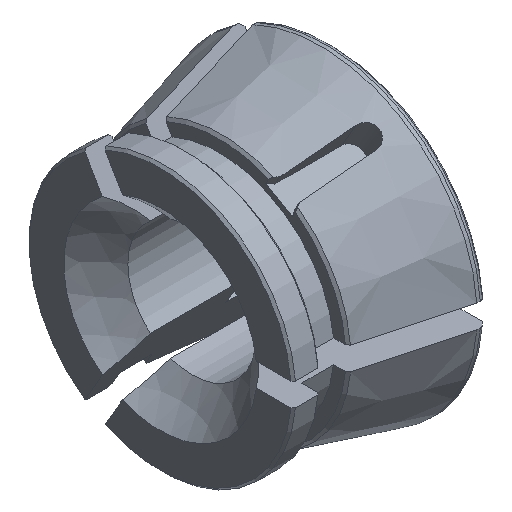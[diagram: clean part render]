
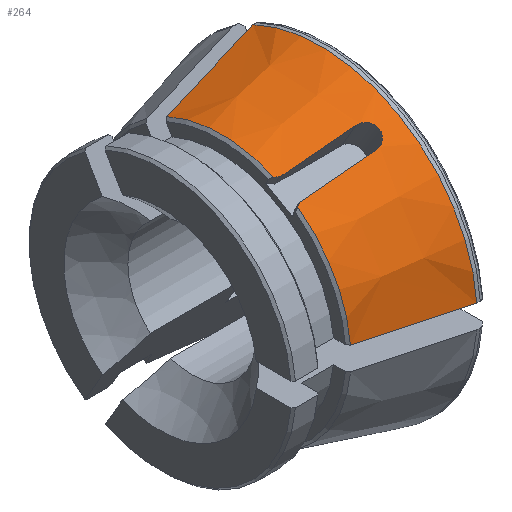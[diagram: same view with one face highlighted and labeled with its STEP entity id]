
A CAD part, isometric view. The second image highlights one B-rep face of the part: STEP entity #264.
In plain terms, the highlighted conical face has half-angle 15 degrees and reference radius 55 mm.
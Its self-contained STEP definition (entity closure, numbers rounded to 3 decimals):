
#78=CONICAL_SURFACE('',#1981,55.,15.);
#96=ELLIPSE('',#1976,102.347,51.985);
#97=ELLIPSE('',#1980,102.347,51.985);
#161=FACE_OUTER_BOUND('',#627,.T.);
#264=ADVANCED_FACE('',(#161),#78,.T.);
#627=EDGE_LOOP('',(#1030,#1031,#1032,#1033,#1034,#1035,#1036,#1037,#1038,
#1039));
#741=CIRCLE('',#1977,45.623);
#742=CIRCLE('',#1978,55.);
#743=CIRCLE('',#1979,45.623);
#1030=ORIENTED_EDGE('',*,*,#1670,.F.);
#1031=ORIENTED_EDGE('',*,*,#1671,.T.);
#1032=ORIENTED_EDGE('',*,*,#1659,.T.);
#1033=ORIENTED_EDGE('',*,*,#1672,.T.);
#1034=ORIENTED_EDGE('',*,*,#1645,.F.);
#1035=ORIENTED_EDGE('',*,*,#1673,.T.);
#1036=ORIENTED_EDGE('',*,*,#1674,.F.);
#1037=ORIENTED_EDGE('',*,*,#1675,.F.);
#1038=ORIENTED_EDGE('',*,*,#1676,.F.);
#1039=ORIENTED_EDGE('',*,*,#1677,.F.);
#1428=VERTEX_POINT('',#3189);
#1429=VERTEX_POINT('',#3194);
#1440=VERTEX_POINT('',#3252);
#1441=VERTEX_POINT('',#3260);
#1448=VERTEX_POINT('',#3289);
#1449=VERTEX_POINT('',#3290);
#1450=VERTEX_POINT('',#3294);
#1451=VERTEX_POINT('',#3296);
#1452=VERTEX_POINT('',#3301);
#1453=VERTEX_POINT('',#3312);
#1645=EDGE_CURVE('',#1428,#1429,#1837,.T.);
#1659=EDGE_CURVE('',#1441,#1440,#1845,.T.);
#1670=EDGE_CURVE('',#1448,#1449,#96,.T.);
#1671=EDGE_CURVE('',#1448,#1441,#741,.T.);
#1672=EDGE_CURVE('',#1440,#1429,#742,.T.);
#1673=EDGE_CURVE('',#1428,#1450,#743,.T.);
#1674=EDGE_CURVE('',#1451,#1450,#97,.T.);
#1675=EDGE_CURVE('',#1452,#1451,#1849,.T.);
#1676=EDGE_CURVE('',#1453,#1452,#1850,.T.);
#1677=EDGE_CURVE('',#1449,#1453,#1851,.T.);
#1837=B_SPLINE_CURVE_WITH_KNOTS('',3,(#3190,#3191,#3192,#3193),
 .UNSPECIFIED.,.F.,.F.,(4,4),(0.,1.),.UNSPECIFIED.);
#1845=B_SPLINE_CURVE_WITH_KNOTS('',3,(#3253,#3254,#3255,#3256,#3257,#3258,
#3259),.UNSPECIFIED.,.F.,.F.,(4,3,4),(0.,0.211,1.),
 .UNSPECIFIED.);
#1849=B_SPLINE_CURVE_WITH_KNOTS('',3,(#3297,#3298,#3299,#3300),
 .UNSPECIFIED.,.F.,.F.,(4,4),(0.,1.),.UNSPECIFIED.);
#1850=B_SPLINE_CURVE_WITH_KNOTS('',3,(#3302,#3303,#3304,#3305,#3306,#3307,
#3308,#3309,#3310,#3311),.UNSPECIFIED.,.F.,.F.,(4,2,2,2,4),(0.,0.25,0.5,
0.75,1.),.UNSPECIFIED.);
#1851=B_SPLINE_CURVE_WITH_KNOTS('',3,(#3313,#3314,#3315,#3316),
 .UNSPECIFIED.,.F.,.F.,(4,4),(0.,1.),.UNSPECIFIED.);
#1976=AXIS2_PLACEMENT_3D('',#3288,#2314,#2315);
#1977=AXIS2_PLACEMENT_3D('',#3291,#2316,#2317);
#1978=AXIS2_PLACEMENT_3D('',#3292,#2318,#2319);
#1979=AXIS2_PLACEMENT_3D('',#3293,#2320,#2321);
#1980=AXIS2_PLACEMENT_3D('',#3295,#2322,#2323);
#1981=AXIS2_PLACEMENT_3D('',#3317,#2324,#2325);
#2314=DIRECTION('',(-0.555,0.721,0.416));
#2315=DIRECTION('',(0.832,0.48,0.277));
#2316=DIRECTION('',(1.,0.,0.));
#2317=DIRECTION('',(0.,0.866,0.5));
#2318=DIRECTION('',(-1.,0.,0.));
#2319=DIRECTION('',(0.,0.,-1.));
#2320=DIRECTION('',(1.,0.,0.));
#2321=DIRECTION('',(0.,0.866,0.5));
#2322=DIRECTION('',(-0.555,-0.721,-0.416));
#2323=DIRECTION('',(0.832,-0.48,-0.277));
#2324=DIRECTION('',(1.,0.,0.));
#2325=DIRECTION('',(0.,0.866,0.5));
#3189=CARTESIAN_POINT('',(13.648,19.186,41.393));
#3190=CARTESIAN_POINT('',(13.648,19.186,41.393));
#3191=CARTESIAN_POINT('',(25.312,20.755,44.111));
#3192=CARTESIAN_POINT('',(36.977,22.323,46.826));
#3193=CARTESIAN_POINT('',(48.642,23.89,49.541));
#3194=CARTESIAN_POINT('',(48.642,23.89,49.541));
#3252=CARTESIAN_POINT('',(48.642,-54.848,4.081));
#3253=CARTESIAN_POINT('',(13.648,-45.44,4.081));
#3254=CARTESIAN_POINT('',(16.106,-46.102,4.081));
#3255=CARTESIAN_POINT('',(18.565,-46.763,4.081));
#3256=CARTESIAN_POINT('',(21.023,-47.424,4.081));
#3257=CARTESIAN_POINT('',(30.229,-49.9,4.081));
#3258=CARTESIAN_POINT('',(39.436,-52.375,4.081));
#3259=CARTESIAN_POINT('',(48.642,-54.848,4.081));
#3260=CARTESIAN_POINT('',(13.648,-45.44,4.081));
#3288=CARTESIAN_POINT('',(55.255,19.761,11.409));
#3289=CARTESIAN_POINT('',(13.648,-26.94,36.82));
#3290=CARTESIAN_POINT('',(14.907,-26.424,37.605));
#3291=CARTESIAN_POINT('',(13.648,0.,0.));
#3292=CARTESIAN_POINT('',(48.642,0.,0.));
#3293=CARTESIAN_POINT('',(13.648,0.,0.));
#3294=CARTESIAN_POINT('',(13.648,-18.417,41.741));
#3295=CARTESIAN_POINT('',(55.255,-19.761,-11.409));
#3296=CARTESIAN_POINT('',(14.907,-19.355,41.686));
#3297=CARTESIAN_POINT('',(38.407,-22.515,47.159));
#3298=CARTESIAN_POINT('',(30.573,-21.462,45.335));
#3299=CARTESIAN_POINT('',(22.74,-20.409,43.511));
#3300=CARTESIAN_POINT('',(14.907,-19.355,41.686));
#3301=CARTESIAN_POINT('',(38.407,-22.515,47.159));
#3302=CARTESIAN_POINT('',(38.407,-29.583,43.078));
#3303=CARTESIAN_POINT('',(39.471,-29.726,43.325));
#3304=CARTESIAN_POINT('',(40.505,-29.517,43.809));
#3305=CARTESIAN_POINT('',(42.023,-28.473,44.977));
#3306=CARTESIAN_POINT('',(42.486,-27.622,45.656));
#3307=CARTESIAN_POINT('',(42.489,-25.739,46.744));
#3308=CARTESIAN_POINT('',(42.033,-24.726,47.144));
#3309=CARTESIAN_POINT('',(40.502,-23.176,47.469));
#3310=CARTESIAN_POINT('',(39.471,-22.658,47.406));
#3311=CARTESIAN_POINT('',(38.407,-22.515,47.159));
#3312=CARTESIAN_POINT('',(38.407,-29.583,43.078));
#3313=CARTESIAN_POINT('',(14.907,-26.424,37.605));
#3314=CARTESIAN_POINT('',(22.74,-27.477,39.43));
#3315=CARTESIAN_POINT('',(30.573,-28.53,41.254));
#3316=CARTESIAN_POINT('',(38.407,-29.583,43.078));
#3317=CARTESIAN_POINT('',(48.642,0.,0.));
